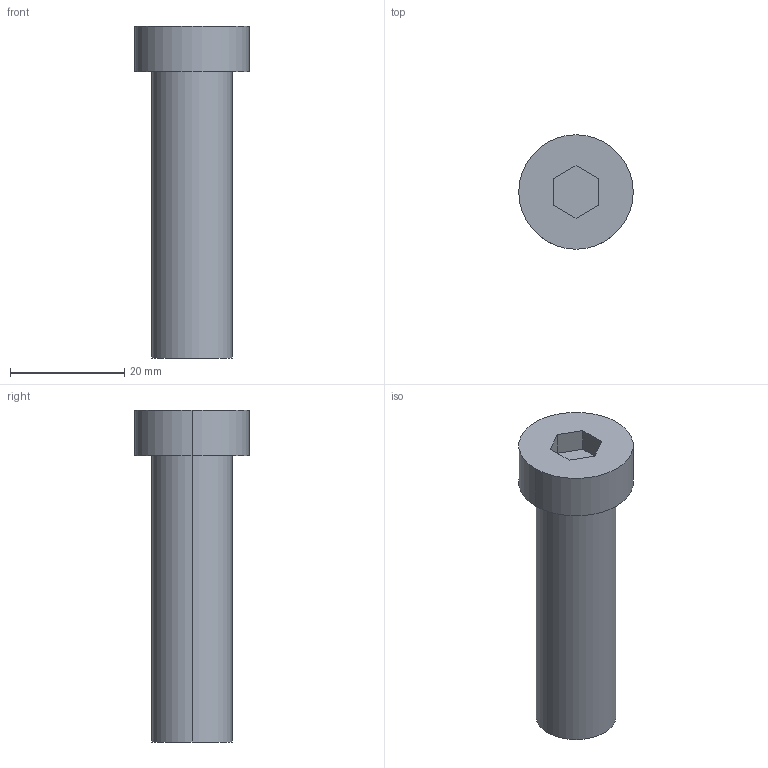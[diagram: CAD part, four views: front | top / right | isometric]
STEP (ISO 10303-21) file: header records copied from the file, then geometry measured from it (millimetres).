
FILE_DESCRIPTION (( 'STEP AP214' ), '1' );
FILE_NAME ('BruyRubio_TGH__14_x_50_-_M-8.STEP', '2019-12-22T23:34:09', ( '' ), ( '' ), 'SwSTEP 2.0', 'SolidWorks 2017', '' );
FILE_SCHEMA (( 'AUTOMOTIVE_DESIGN' ));
Length unit declared in the file: millimetre
Products named in the file (1): BruyRubio_TGH__14_x_50_-_M-8
Bounding box: 20 x 20 x 58 mm (x, y, z)
Volume: 9260.6 mm3; surface area: 4802.2 mm2
Topology: 2 solids, 2 shells, 27 faces, 58 edges, 37 vertices
Faces by surface type: plane 13, cylinder 12, cone 2
Entity records: 1070 total; most frequent: DIRECTION 136, CARTESIAN_POINT 121, ORIENTED_EDGE 112, EDGE_CURVE 56, AXIS2_PLACEMENT_3D 52, VERTEX_POINT 37, EDGE_LOOP 33, VECTOR 32
